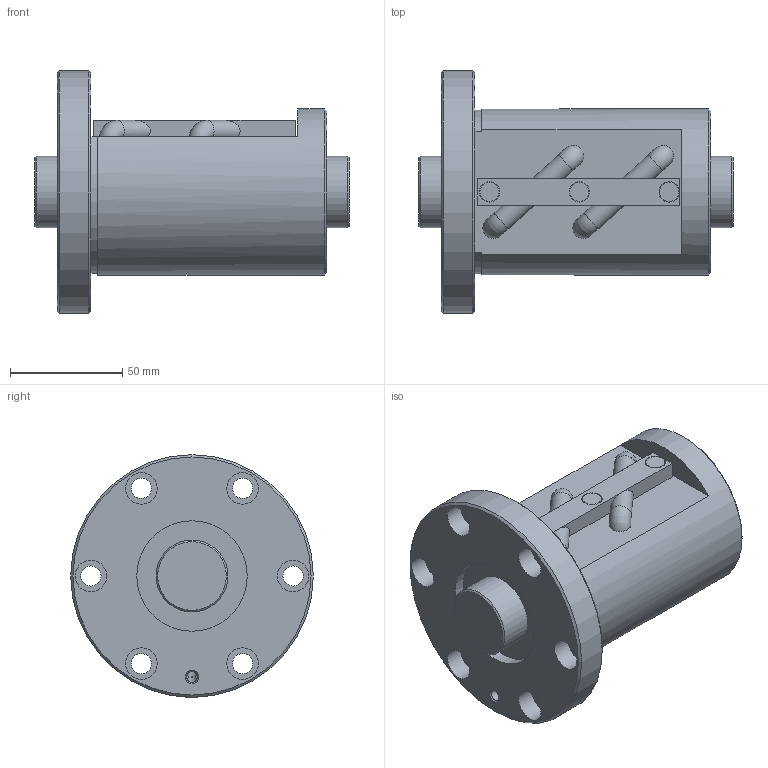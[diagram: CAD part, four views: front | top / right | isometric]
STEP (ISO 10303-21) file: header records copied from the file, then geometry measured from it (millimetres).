
FILE_DESCRIPTION(/* description */ ('STEP AP203'),/* implementation_level */ '2;1');
FILE_NAME(/* name */ 'BIF3210V-7RRG0+140LC0_000',/* time_stamp */ '2024-07-15T08:23:21+02:00',/* author */ ('License CC BY-ND 4.0'),/* organization */ ('CADENAS'),/* preprocessor_version */ 'ST-DEVELOPER v19.3',/* originating_system */ 'PARTsolutions',/* authorisation */ ' ');
FILE_SCHEMA (('CONFIG_CONTROL_DESIGN'));
Length unit declared in the file: millimetre
Products named in the file (3): BIF3210V-7RRG0+140LC0_000; BIF3210V-7RR000 Shaft; BIF3210V-7RR Nut
Assembly tree (2 placements, depth 2):
  BIF3210V-7RRG0+140LC0_000
    BIF3210V-7RR000 Shaft
    BIF3210V-7RR Nut
Bounding box: 140 x 108 x 108 mm (x, y, z)
Volume: 549759.9 mm3; surface area: 80183.7 mm2
Topology: 2 solids, 2 shells, 88 faces, 194 edges, 124 vertices
Faces by surface type: plane 43, cylinder 32, cone 9, torus 4
Full cylindrical faces by diameter (mm): 4.25 x2, 4.917 x1, 8.5 x3, 9 x6, 9.1 x2, 14 x6, 32 x2, 49.2 x2, 74 x1, 108 x1
Entity records: 2388 total; most frequent: CARTESIAN_POINT 474, DIRECTION 412, ORIENTED_EDGE 298, AXIS2_PLACEMENT_3D 183, FACE_BOUND 155, EDGE_LOOP 154, EDGE_CURVE 149, VERTEX_POINT 116
